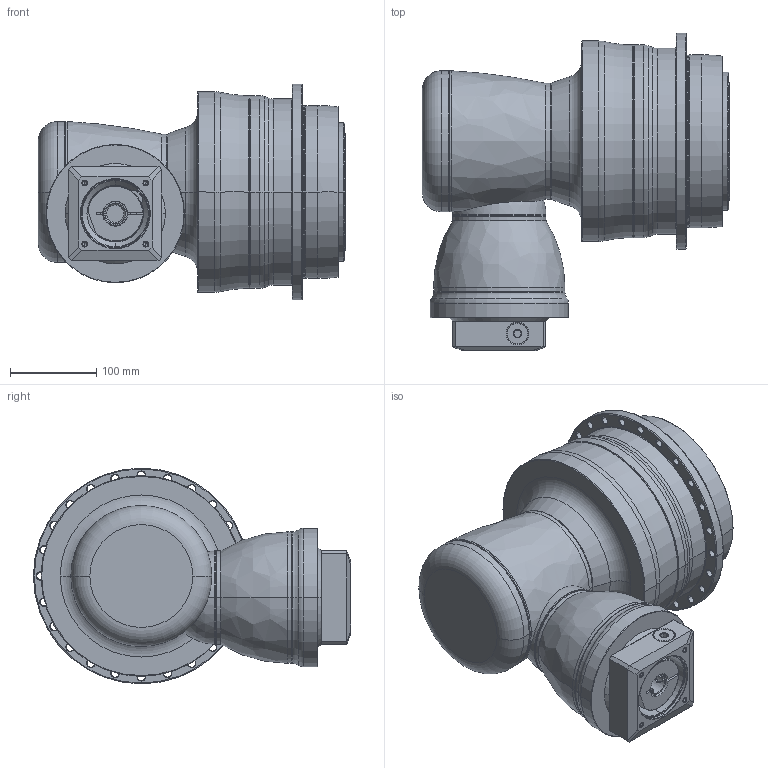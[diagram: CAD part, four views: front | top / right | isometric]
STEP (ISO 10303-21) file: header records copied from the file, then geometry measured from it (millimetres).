
FILE_DESCRIPTION((''),'2;1');
FILE_NAME('APK200_3ST_24-P0409510201_ASM','2018-07-17T',('D00080'),(''),'PRO/ENGINEER BY PARAMETRIC TECHNOLOGY CORPORATION, 2008170','PRO/ENGINEER BY PARAMETRIC TECHNOLOGY CORPORATION, 2008170','');
FILE_SCHEMA(('CONFIG_CONTROL_DESIGN'));
Length unit declared in the file: millimetre
Products named in the file (13): P1008500002; P1832600001; P0278601003; P0359601103; P1211600001; P1315500001; P1007501001; P1318501001; P0503500010; P0912550001; P0409510201; 21711418017; APK200_3ST_24-P0409510201_ASM
Assembly tree (12 placements, depth 2):
  APK200_3ST_24-P0409510201_ASM
    P1008500002
    P1832600001
    P0278601003
    P0359601103
    P1211600001
    P1315500001
    P1007501001
    P1318501001
    P0503500010
    P0912550001
    P0409510201
    21711418017
Bounding box: 355.5 x 366.75 x 249.5 mm (x, y, z)
Volume: 12085972.3 mm3; surface area: 898926.6 mm2
Topology: 13 solids, 38 shells, 764 faces, 1794 edges, 1085 vertices
Faces by surface type: cylinder 309, cone 223, plane 129, torus 80, bspline 21, sphere 2
Entity records: 27398 total; most frequent: CARTESIAN_POINT 9244, DIRECTION 4170, ORIENTED_EDGE 3398, AXIS2_PLACEMENT_3D 1787, EDGE_CURVE 1750, VERTEX_POINT 1085, CIRCLE 1009, EDGE_LOOP 901
